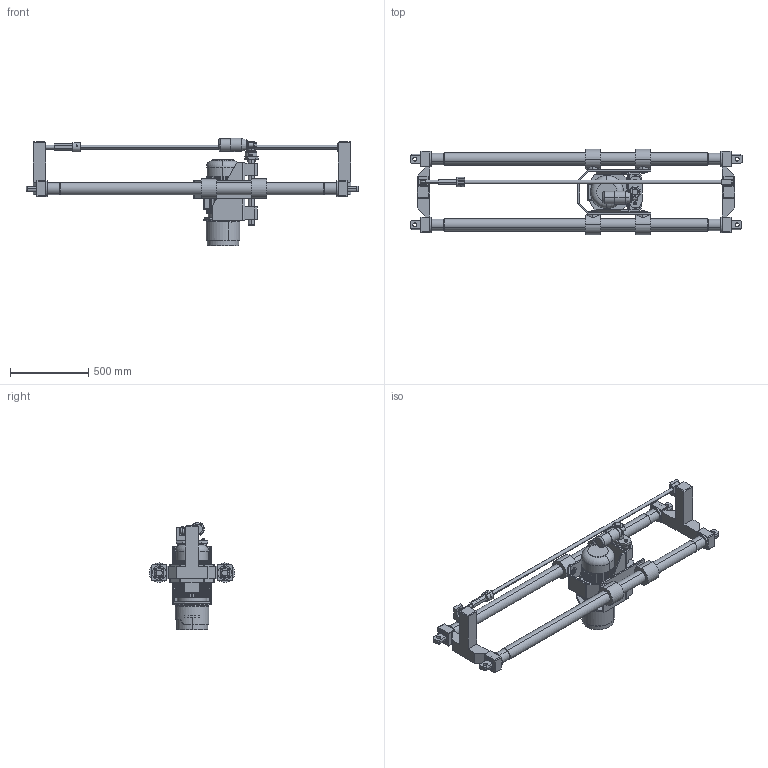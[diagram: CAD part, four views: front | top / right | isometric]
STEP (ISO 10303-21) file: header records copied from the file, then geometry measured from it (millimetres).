
FILE_DESCRIPTION((''),'2;1');
FILE_NAME('C:\Documents and Settings\LEGERET Philippe\Bureau\meuleuse de rails\solidworks\ensemble de meulage R9.stp','2006-03-06T18:22:21',('LEGERET Philippe'),(''),'Autodesk Inventor 9','Autodesk Inventor 9','');
FILE_SCHEMA(('AUTOMOTIVE_DESIGN { 1 0 10303 214 1 1 1 1 }'));
Length unit declared in the file: millimetre
Products named in the file (64): ensemble de meulage R9; traverse; tube; embout; attelage; chape; tirant droit; tirant gauche; écrou de tension; bague de blocage; commande axe vertical meule; colonne vert; traverse motoréducteur; motoréducteur; pivot vis; vis_-_nlm_07160-05_x_40; vis_uni_5931_m12-_1_75-_45; roulement_a_billes_-_3203_a; roulement_a_billes_-_3203_a_04; roulement_a_billes_-_3203_a_03; roulement_a_billes_-_3203_a_02; roulement_a_billes_-_3203_a_01; miniflex_633040_14_14; miniflex_633040_14_14_01; miniflex_633040_14_14_02; miniflex_633040_14_14_03; axe motoréducteur; vis; anneau_elastique_pour_arbre_-_17_-_bs_3673; anneau_elastique_pour_alesage_-_40_-_bs_3673; ensemble étrier; bague de guidage; coupelle; vis__m12_x_1_75_x_20__ansi_b18_2_3_1m; etrier; Welds_2; étrier; support colonne vert droit; support colonne vert gauche; din_915_m12x28-45h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
Assembly tree (105 placements, depth 4):
  ensemble de meulage R9
    traverse  x2
    tube  x2
    embout  x4
    attelage  x4
    chape  x2
    tirant droit
    tirant gauche
    écrou de tension
    bague de blocage
    commande axe vertical meule
      colonne vert  x2
      traverse motoréducteur
      motoréducteur
      pivot vis
      vis_-_nlm_07160-05_x_40  x6
      vis_uni_5931_m12-_1_75-_45  x2
      roulement_a_billes_-_3203_a
        roulement_a_billes_-_3203_a_04
        roulement_a_billes_-_3203_a_03
        roulement_a_billes_-_3203_a_02
        roulement_a_billes_-_3203_a_01
      miniflex_633040_14_14
        miniflex_633040_14_14_01
        miniflex_633040_14_14_02
        miniflex_633040_14_14_03
      axe motoréducteur
      vis
      anneau_elastique_pour_arbre_-_17_-_bs_3673
      anneau_elastique_pour_alesage_-_40_-_bs_3673
    ensemble étrier
      bague de guidage  x4
      coupelle  x4
      vis__m12_x_1_75_x_20__ansi_b18_2_3_1m  x4
      etrier
        Welds_2
        étrier
        support colonne vert droit
        support colonne vert gauche
      din_915_m12x28-45h  x2
    guidage vertical meule
      centreur meule
      support meule
        Welds_3
        support moteur meule
        support moteur meule2
        support douilles à billes  x4
        support écrou
      moteur meule
        axe moteur meule
        corps moteur meule
        clavette moteur meule
      protection meule
        Welds_4
        protection meule
        protection meule2
      porte meule
      meule
      rondelle meule
      douille_billes_sm40_g__0  x4
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Bounding box: 2120 x 545 x 684.88 mm (x, y, z)
Volume: 49303228 mm3; surface area: 5544872.5 mm2
Topology: 122 solids, 122 shells, 2621 faces, 6368 edges, 4070 vertices
Faces by surface type: plane 1108, cylinder 730, bspline 343, cone 281, torus 105, sphere 54
Entity records: 54401 total; most frequent: CARTESIAN_POINT 14898, DIRECTION 8291, ORIENTED_EDGE 7654, EDGE_CURVE 3827, AXIS2_PLACEMENT_3D 3115, VERTEX_POINT 2468, VECTOR 2061, LINE 2061
